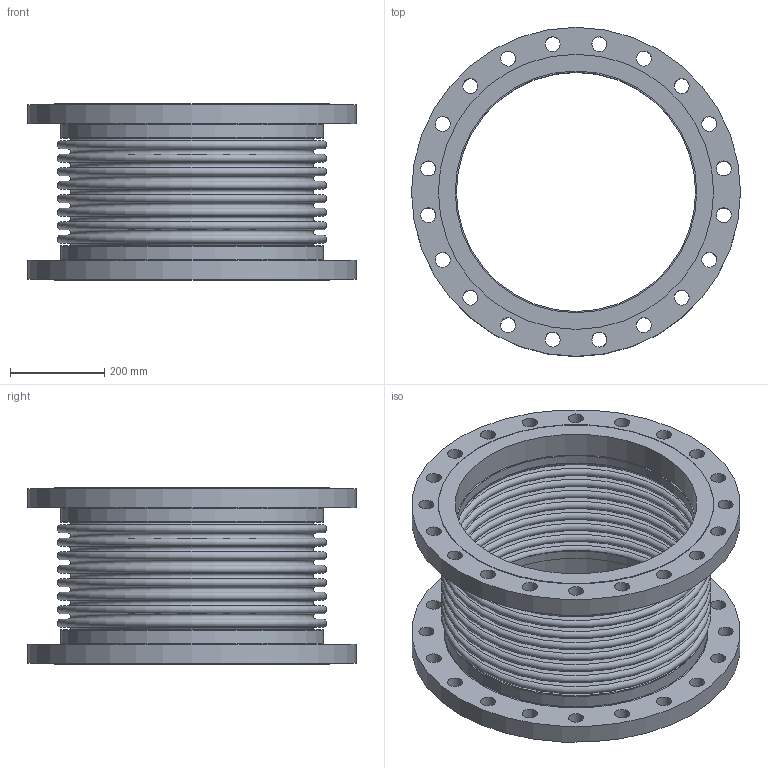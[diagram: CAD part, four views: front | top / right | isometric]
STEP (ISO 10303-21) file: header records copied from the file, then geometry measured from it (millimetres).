
FILE_DESCRIPTION(/* description */ ('EXPANSION JOINT,SINGLE, FLANGED ENDS,20 INCH','CAx-IF Rec.Pracs.---Representation and Presentation of Product Manufacturing Information (PMI)---4.0---2014-10-13'),/* implementation_level */ '2;1');
FILE_NAME(/* name */ 'US-20-8-300S-FLANGED ENDS.stp',/* time_stamp */ '2026-07-31T17:39:57-05:00',/* author */ ('Guadalupe'),/* organization */ (''),/* preprocessor_version */ 'ST-DEVELOPER v20.1',/* originating_system */ 'Autodesk Inventor 2026',/* authorisation */ '');
FILE_SCHEMA (('AP242_MANAGED_MODEL_BASED_3D_ENGINEERING_MIM_LF { 1 0 10303 442 2 1 4 }'));
Length unit declared in the file: inch
Products named in the file (3): 20-300S; 20-300S-02; 20-300S-01
Assembly tree (3 placements, depth 2):
  20-300S
    20-300S-02  x2
    20-300S-01
Bounding box: 698.5 x 698.5 x 374.4 mm (x, y, z)
Volume: 18965162.4 mm3; surface area: 3480954.3 mm2
Topology: 5 solids, 5 shells, 136 faces, 270 edges, 180 vertices
Faces by surface type: cylinder 52, plane 46, torus 38
Full cylindrical faces by diameter (mm): 31.75 x40, 508 x2, 513.08 x2, 514.096 x2, 558.8 x2, 584.2 x2, 698.5 x2
Entity records: 3026 total; most frequent: DIRECTION 606, CARTESIAN_POINT 449, ORIENTED_EDGE 384, AXIS2_PLACEMENT_3D 289, EDGE_CURVE 192, EDGE_LOOP 188, CIRCLE 164, VERTEX_POINT 128
